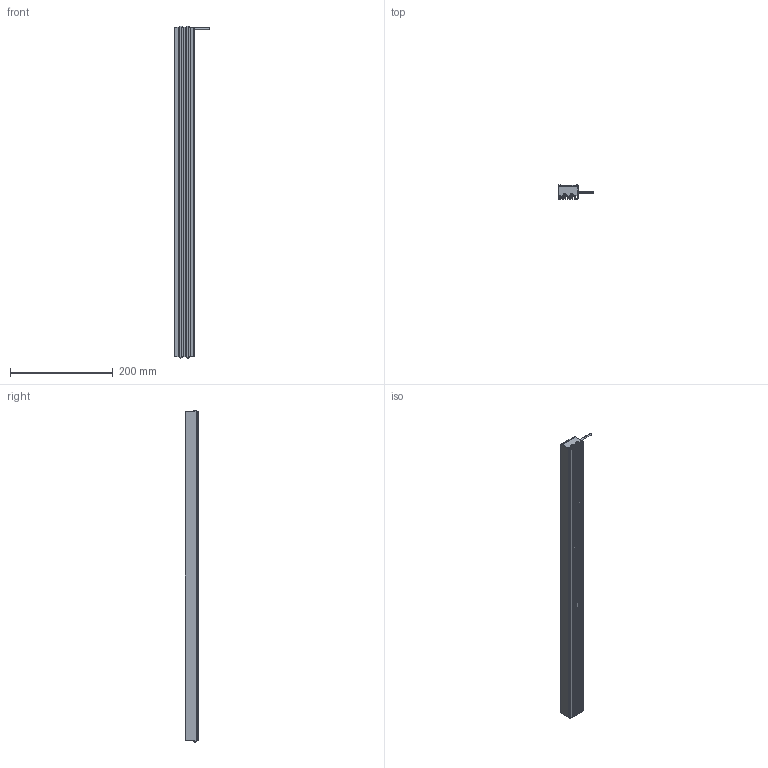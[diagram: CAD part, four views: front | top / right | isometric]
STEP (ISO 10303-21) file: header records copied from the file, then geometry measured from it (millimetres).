
FILE_DESCRIPTION((''),'2;1');
FILE_NAME('MV-LLDS-642-38_ASM','2020-12-30T',('Administrator'),(''),'PRO/ENGINEER BY PARAMETRIC TECHNOLOGY CORPORATION, 2010100','PRO/ENGINEER BY PARAMETRIC TECHNOLOGY CORPORATION, 2010100','');
FILE_SCHEMA(('CONFIG_CONTROL_DESIGN'));
Length unit declared in the file: millimetre
Products named in the file (3): BL-6_3_; M3-5_3; MV-LLDS-642-38_ASM
Assembly tree (5 placements, depth 2):
  MV-LLDS-642-38_ASM
    BL-6_3_
    M3-5_3  x4
Bounding box: 68 x 27 x 646.68 mm (x, y, z)
Volume: 537060.8 mm3; surface area: 154259.2 mm2
Topology: 5 solids, 13 shells, 349 faces, 934 edges, 604 vertices
Faces by surface type: plane 223, cylinder 78, cone 16, bspline 16, torus 8, sphere 8
Entity records: 8203 total; most frequent: CARTESIAN_POINT 1695, ORIENTED_EDGE 1338, DIRECTION 1310, EDGE_CURVE 679, VECTOR 514, LINE 514, VERTEX_POINT 445, AXIS2_PLACEMENT_3D 398
